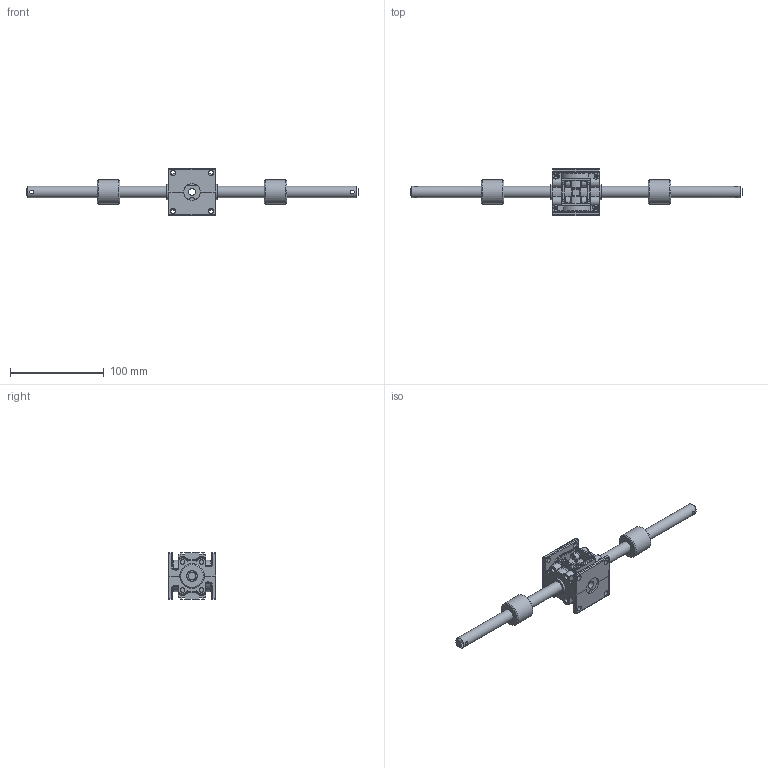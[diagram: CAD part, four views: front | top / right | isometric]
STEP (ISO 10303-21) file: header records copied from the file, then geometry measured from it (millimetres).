
FILE_DESCRIPTION(/* description */ (''),/* implementation_level */ '2;1');
FILE_NAME(/* name */ '3872_00-0077 mit 2 Spindeln .stp',/* time_stamp */ '2025-06-26T10:49:26+02:00',/* author */ ('Weber_H'),/* organization */ (''),/* preprocessor_version */ 'ST-DEVELOPER v19.2',/* originating_system */ 'Autodesk Inventor 2023',/* authorisation */ '');
FILE_SCHEMA (('CONFIG_CONTROL_DESIGN'));
Length unit declared in the file: millimetre
Products named in the file (1): Bauteil1
Bounding box: 353.6 x 50.1 x 50 mm (x, y, z)
Volume: 128097.9 mm3; surface area: 56886 mm2
Topology: 1 solids, 23 shells, 1185 faces, 3083 edges, 1856 vertices
Faces by surface type: plane 491, cylinder 396, torus 136, cone 70, sphere 48, bspline 44
Full cylindrical faces by diameter (mm): 2.764 x4, 3.5 x4, 4 x2, 4.134 x2, 4.75 x8, 5 x5, 5.3 x1, 5.5 x8, 6.9 x4, 8 x3, 10.9 x4, 11.8 x3, 12 x10, 16 x2, 16.7 x6, 18 x4, 23.4 x6, 26 x2, 28 x4
Entity records: 39874 total; most frequent: CARTESIAN_POINT 10229, DIRECTION 6098, ORIENTED_EDGE 6048, EDGE_CURVE 3024, AXIS2_PLACEMENT_3D 2335, VERTEX_POINT 1856, LINE 1428, VECTOR 1428
